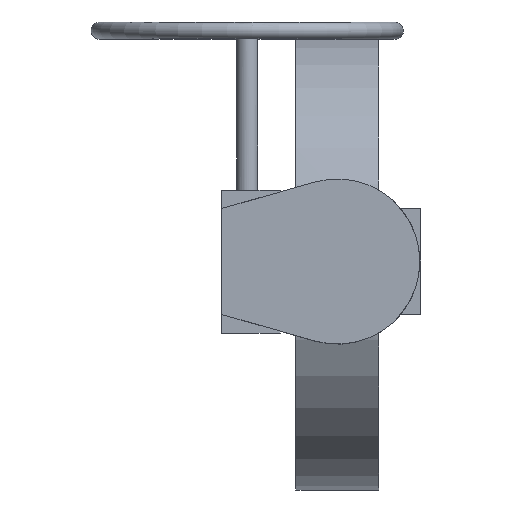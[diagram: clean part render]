
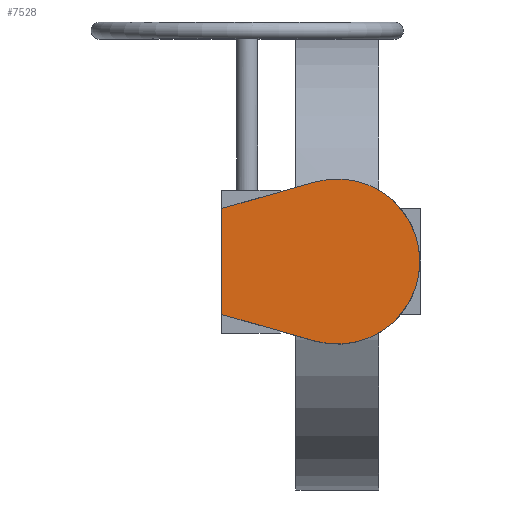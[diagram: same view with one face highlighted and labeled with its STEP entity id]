
A CAD part, top view. The second image highlights one B-rep face of the part: STEP entity #7528.
In plain terms, the highlighted planar face has unit normal (0, 0, 1).
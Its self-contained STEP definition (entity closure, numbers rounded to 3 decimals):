
#7528=ADVANCED_FACE('',(#13650),#13652,.T.);
#13650=FACE_BOUND('',#13651,.T.);
#13651=EDGE_LOOP('',(#18632,#18633,#18634,#18635));
#13652=PLANE('',#13653);
#13653=AXIS2_PLACEMENT_3D('',#13654,#13655,#13656);
#13654=CARTESIAN_POINT('',(0.,0.,448.));
#13655=DIRECTION('',(0.,0.,1.));
#13656=DIRECTION('',(0.,1.,0.));
#18632=ORIENTED_EDGE('',*,*,#21181,.T.);
#18633=ORIENTED_EDGE('',*,*,#21177,.T.);
#18634=ORIENTED_EDGE('',*,*,#21170,.T.);
#18635=ORIENTED_EDGE('',*,*,#21165,.T.);
#21165=EDGE_CURVE('',#25244,#25242,#25245,.T.);
#21170=EDGE_CURVE('',#25252,#25244,#25253,.T.);
#21177=EDGE_CURVE('',#25265,#25252,#25266,.T.);
#21181=EDGE_CURVE('',#25242,#25265,#25271,.T.);
#25242=VERTEX_POINT('',#36130);
#25244=VERTEX_POINT('',#36134);
#25245=LINE('',#36135,#36136);
#25252=VERTEX_POINT('',#36152);
#25253=LINE('',#36153,#36154);
#25265=VERTEX_POINT('',#36179);
#25266=LINE('',#36180,#36181);
#25271=CIRCLE('',#36193,78.);
#36130=CARTESIAN_POINT('',(-21.411,-75.004,448.));
#36134=CARTESIAN_POINT('',(-109.,-50.,448.));
#36135=CARTESIAN_POINT('',(-109.,-50.,448.));
#36136=VECTOR('',#36137,1.);
#36137=DIRECTION('',(0.962,-0.275,0.));
#36152=CARTESIAN_POINT('',(-109.,50.,448.));
#36153=CARTESIAN_POINT('',(-109.,50.,448.));
#36154=VECTOR('',#36155,1.);
#36155=DIRECTION('',(0.,-1.,0.));
#36179=CARTESIAN_POINT('',(-21.411,75.004,448.));
#36180=CARTESIAN_POINT('',(-21.411,75.004,448.));
#36181=VECTOR('',#36182,1.);
#36182=DIRECTION('',(-0.962,-0.275,0.));
#36193=AXIS2_PLACEMENT_3D('',#36194,#36195,#36196);
#36194=CARTESIAN_POINT('',(0.,0.,448.));
#36195=DIRECTION('',(0.,0.,1.));
#36196=DIRECTION('',(-0.275,-0.962,0.));
